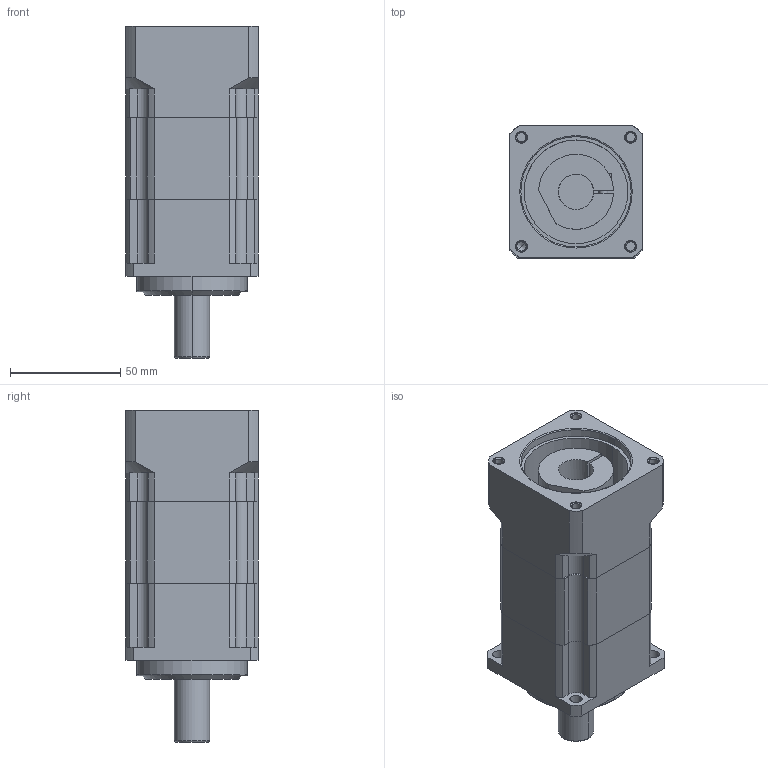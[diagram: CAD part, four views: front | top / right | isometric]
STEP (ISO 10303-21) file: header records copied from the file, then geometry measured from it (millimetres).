
FILE_DESCRIPTION((''),'2;1');
FILE_NAME('AB060A2-P0401200402_ASM','2016-03-10T',('d00435'),(''),'PRO/ENGINEER BY PARAMETRIC TECHNOLOGY CORPORATION, 2008410','PRO/ENGINEER BY PARAMETRIC TECHNOLOGY CORPORATION, 2008410','');
FILE_SCHEMA(('CONFIG_CONTROL_DESIGN'));
Length unit declared in the file: millimetre
Products named in the file (4): AB060A2; AN023A-1; P0401200402; AB060A2-P0401200402_ASM
Assembly tree (3 placements, depth 2):
  AB060A2-P0401200402_ASM
    AB060A2
    AN023A-1
    P0401200402
Bounding box: 60 x 60 x 150.5 mm (x, y, z)
Volume: 333522.5 mm3; surface area: 58611 mm2
Topology: 3 solids, 8 shells, 199 faces, 513 edges, 334 vertices
Faces by surface type: cylinder 93, plane 78, cone 20, torus 8
Entity records: 6289 total; most frequent: DIRECTION 1155, CARTESIAN_POINT 1109, ORIENTED_EDGE 996, EDGE_CURVE 509, AXIS2_PLACEMENT_3D 445, VERTEX_POINT 334, VECTOR 265, LINE 265
